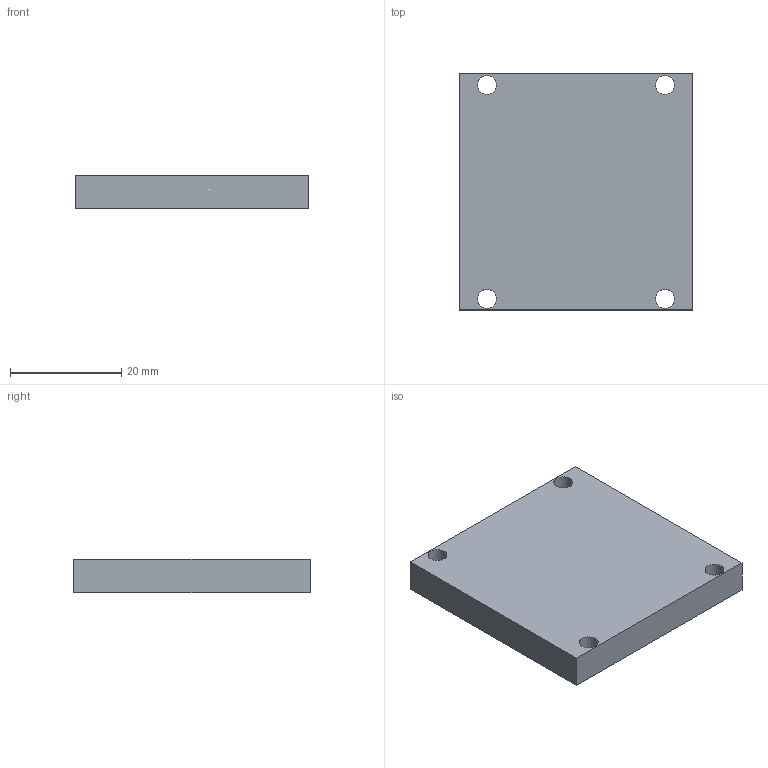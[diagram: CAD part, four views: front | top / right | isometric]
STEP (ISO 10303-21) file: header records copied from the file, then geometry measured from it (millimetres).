
FILE_DESCRIPTION(('Open CASCADE Model'),'2;1');
FILE_NAME('Open CASCADE Shape Model','2026-07-25T17:39:16',('Author'),( 'Open CASCADE'),'Open CASCADE STEP processor 7.9','build123d', 'Unknown');
FILE_SCHEMA(('AUTOMOTIVE_DESIGN { 1 0 10303 214 1 1 1 1 }'));
Length unit declared in the file: millimetre
Products named in the file (1): COMPOUND
Bounding box: 42 x 42.45 x 6 mm (x, y, z)
Volume: 10479.5 mm3; surface area: 4762.9 mm2
Topology: 1 solids, 1 shells, 10 faces, 24 edges, 16 vertices
Faces by surface type: plane 6, cylinder 4
Full cylindrical faces by diameter (mm): 3.4 x4
Entity records: 634 total; most frequent: DIRECTION 102, CARTESIAN_POINT 99, LINE 56, VECTOR 56, ORIENTED_EDGE 48, PCURVE 48, DEFINITIONAL_REPRESENTATION 48, EDGE_CURVE 24
